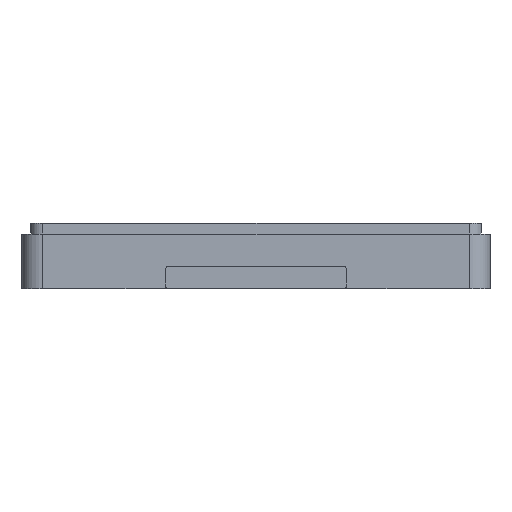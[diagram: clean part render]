
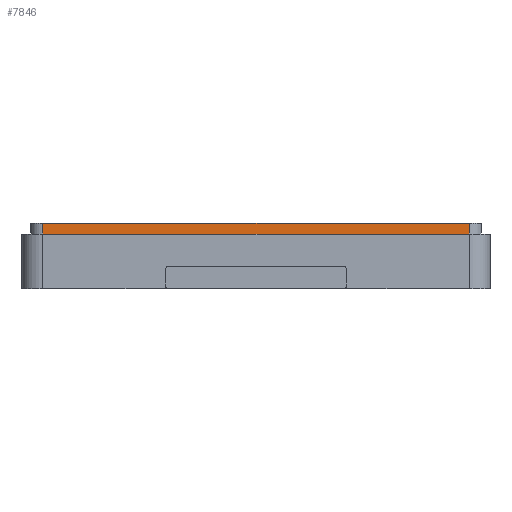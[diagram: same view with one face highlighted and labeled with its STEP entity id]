
A CAD part, left-side view. The second image highlights one B-rep face of the part: STEP entity #7846.
In plain terms, the highlighted planar face has unit normal (-1, 0, 0).
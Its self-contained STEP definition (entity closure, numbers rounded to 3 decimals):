
#935 = PLANE('',#936);
#936 = AXIS2_PLACEMENT_3D('',#937,#938,#939);
#937 = CARTESIAN_POINT('',(0.,0.,12.));
#938 = DIRECTION('',(0.,0.,1.));
#939 = DIRECTION('',(1.,0.,-0.));
#4203 = EDGE_CURVE('',#4204,#4206,#4208,.T.);
#4204 = VERTEX_POINT('',#4205);
#4205 = CARTESIAN_POINT('',(-1.69,78.28,
    12.));
#4206 = VERTEX_POINT('',#4207);
#4207 = CARTESIAN_POINT('',(-1.69,0.46,12.));
#4208 = SURFACE_CURVE('',#4209,(#4213,#4220),.PCURVE_S1.);
#4209 = LINE('',#4210,#4211);
#4210 = CARTESIAN_POINT('',(-1.69,78.28,
    12.));
#4211 = VECTOR('',#4212,1.);
#4212 = DIRECTION('',(0.,-1.,-0.));
#4213 = PCURVE('',#935,#4214);
#4214 = DEFINITIONAL_REPRESENTATION('',(#4215),#4219);
#4215 = LINE('',#4216,#4217);
#4216 = CARTESIAN_POINT('',(-1.69,78.28));
#4217 = VECTOR('',#4218,1.);
#4218 = DIRECTION('',(0.,-1.));
#4219 = ( GEOMETRIC_REPRESENTATION_CONTEXT(2) 
PARAMETRIC_REPRESENTATION_CONTEXT() REPRESENTATION_CONTEXT('2D SPACE',''
  ) );
#4220 = PCURVE('',#4221,#4226);
#4221 = PLANE('',#4222);
#4222 = AXIS2_PLACEMENT_3D('',#4223,#4224,#4225);
#4223 = CARTESIAN_POINT('',(-1.69,78.28,
    9.25));
#4224 = DIRECTION('',(1.,0.,-0.));
#4225 = DIRECTION('',(0.,-1.,0.));
#4226 = DEFINITIONAL_REPRESENTATION('',(#4227),#4231);
#4227 = LINE('',#4228,#4229);
#4228 = CARTESIAN_POINT('',(0.,-2.75));
#4229 = VECTOR('',#4230,1.);
#4230 = DIRECTION('',(1.,0.));
#4231 = ( GEOMETRIC_REPRESENTATION_CONTEXT(2) 
PARAMETRIC_REPRESENTATION_CONTEXT() REPRESENTATION_CONTEXT('2D SPACE',''
  ) );
#4250 = CYLINDRICAL_SURFACE('',#4251,2.15);
#4251 = AXIS2_PLACEMENT_3D('',#4252,#4253,#4254);
#4252 = CARTESIAN_POINT('',(0.46,0.46,9.25));
#4253 = DIRECTION('',(-0.,-0.,-1.));
#4254 = DIRECTION('',(-1.,0.,0.));
#4455 = CYLINDRICAL_SURFACE('',#4456,2.15);
#4456 = AXIS2_PLACEMENT_3D('',#4457,#4458,#4459);
#4457 = CARTESIAN_POINT('',(0.46,78.28,9.25));
#4458 = DIRECTION('',(-0.,0.,-1.));
#4459 = DIRECTION('',(0.,1.,0.));
#7846 = ADVANCED_FACE('',(#7847),#4221,.F.);
#7847 = FACE_BOUND('',#7848,.F.);
#7848 = EDGE_LOOP('',(#7849,#7877,#7898,#7899));
#7849 = ORIENTED_EDGE('',*,*,#7850,.T.);
#7850 = EDGE_CURVE('',#7851,#7853,#7855,.T.);
#7851 = VERTEX_POINT('',#7852);
#7852 = CARTESIAN_POINT('',(-1.69,0.46,10.));
#7853 = VERTEX_POINT('',#7854);
#7854 = CARTESIAN_POINT('',(-1.69,78.28,
    10.));
#7855 = SURFACE_CURVE('',#7856,(#7860,#7866),.PCURVE_S1.);
#7856 = LINE('',#7857,#7858);
#7857 = CARTESIAN_POINT('',(-1.69,39.14,
    10.));
#7858 = VECTOR('',#7859,1.);
#7859 = DIRECTION('',(0.,1.,0.));
#7860 = PCURVE('',#4221,#7861);
#7861 = DEFINITIONAL_REPRESENTATION('',(#7862),#7865);
#7862 = B_SPLINE_CURVE_WITH_KNOTS('',1,(#7863,#7864),.UNSPECIFIED.,.F.,
  .F.,(2,2),(-38.68,39.14),.PIECEWISE_BEZIER_KNOTS.);
#7863 = CARTESIAN_POINT('',(77.82,-0.75));
#7864 = CARTESIAN_POINT('',(0.,-0.75));
#7865 = ( GEOMETRIC_REPRESENTATION_CONTEXT(2) 
PARAMETRIC_REPRESENTATION_CONTEXT() REPRESENTATION_CONTEXT('2D SPACE',''
  ) );
#7866 = PCURVE('',#7867,#7872);
#7867 = PLANE('',#7868);
#7868 = AXIS2_PLACEMENT_3D('',#7869,#7870,#7871);
#7869 = CARTESIAN_POINT('',(0.,0.,10.));
#7870 = DIRECTION('',(0.,0.,1.));
#7871 = DIRECTION('',(1.,0.,-0.));
#7872 = DEFINITIONAL_REPRESENTATION('',(#7873),#7876);
#7873 = B_SPLINE_CURVE_WITH_KNOTS('',1,(#7874,#7875),.UNSPECIFIED.,.F.,
  .F.,(2,2),(-38.68,39.14),.PIECEWISE_BEZIER_KNOTS.);
#7874 = CARTESIAN_POINT('',(-1.69,0.46));
#7875 = CARTESIAN_POINT('',(-1.69,78.28));
#7876 = ( GEOMETRIC_REPRESENTATION_CONTEXT(2) 
PARAMETRIC_REPRESENTATION_CONTEXT() REPRESENTATION_CONTEXT('2D SPACE',''
  ) );
#7877 = ORIENTED_EDGE('',*,*,#7878,.T.);
#7878 = EDGE_CURVE('',#7853,#4204,#7879,.T.);
#7879 = SURFACE_CURVE('',#7880,(#7884,#7891),.PCURVE_S1.);
#7880 = LINE('',#7881,#7882);
#7881 = CARTESIAN_POINT('',(-1.69,78.28,
    9.25));
#7882 = VECTOR('',#7883,1.);
#7883 = DIRECTION('',(0.,0.,1.));
#7884 = PCURVE('',#4221,#7885);
#7885 = DEFINITIONAL_REPRESENTATION('',(#7886),#7890);
#7886 = LINE('',#7887,#7888);
#7887 = CARTESIAN_POINT('',(0.,0.));
#7888 = VECTOR('',#7889,1.);
#7889 = DIRECTION('',(0.,-1.));
#7890 = ( GEOMETRIC_REPRESENTATION_CONTEXT(2) 
PARAMETRIC_REPRESENTATION_CONTEXT() REPRESENTATION_CONTEXT('2D SPACE',''
  ) );
#7891 = PCURVE('',#4455,#7892);
#7892 = DEFINITIONAL_REPRESENTATION('',(#7893),#7897);
#7893 = LINE('',#7894,#7895);
#7894 = CARTESIAN_POINT('',(-1.571,0.));
#7895 = VECTOR('',#7896,1.);
#7896 = DIRECTION('',(-0.,-1.));
#7897 = ( GEOMETRIC_REPRESENTATION_CONTEXT(2) 
PARAMETRIC_REPRESENTATION_CONTEXT() REPRESENTATION_CONTEXT('2D SPACE',''
  ) );
#7898 = ORIENTED_EDGE('',*,*,#4203,.T.);
#7899 = ORIENTED_EDGE('',*,*,#7900,.F.);
#7900 = EDGE_CURVE('',#7851,#4206,#7901,.T.);
#7901 = SURFACE_CURVE('',#7902,(#7906,#7913),.PCURVE_S1.);
#7902 = LINE('',#7903,#7904);
#7903 = CARTESIAN_POINT('',(-1.69,0.46,9.25));
#7904 = VECTOR('',#7905,1.);
#7905 = DIRECTION('',(0.,0.,1.));
#7906 = PCURVE('',#4221,#7907);
#7907 = DEFINITIONAL_REPRESENTATION('',(#7908),#7912);
#7908 = LINE('',#7909,#7910);
#7909 = CARTESIAN_POINT('',(77.82,0.));
#7910 = VECTOR('',#7911,1.);
#7911 = DIRECTION('',(0.,-1.));
#7912 = ( GEOMETRIC_REPRESENTATION_CONTEXT(2) 
PARAMETRIC_REPRESENTATION_CONTEXT() REPRESENTATION_CONTEXT('2D SPACE',''
  ) );
#7913 = PCURVE('',#4250,#7914);
#7914 = DEFINITIONAL_REPRESENTATION('',(#7915),#7919);
#7915 = LINE('',#7916,#7917);
#7916 = CARTESIAN_POINT('',(-0.,0.));
#7917 = VECTOR('',#7918,1.);
#7918 = DIRECTION('',(-0.,-1.));
#7919 = ( GEOMETRIC_REPRESENTATION_CONTEXT(2) 
PARAMETRIC_REPRESENTATION_CONTEXT() REPRESENTATION_CONTEXT('2D SPACE',''
  ) );
